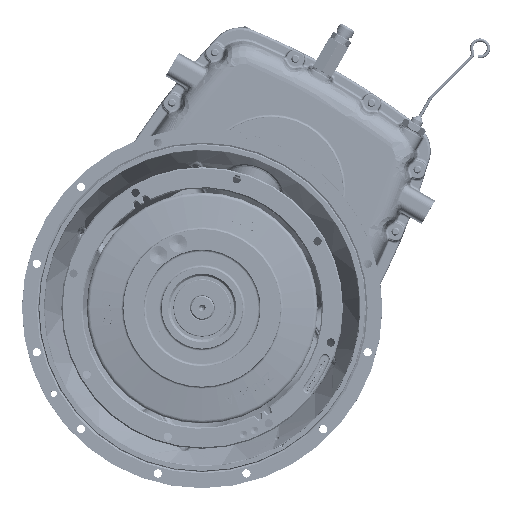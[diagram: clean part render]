
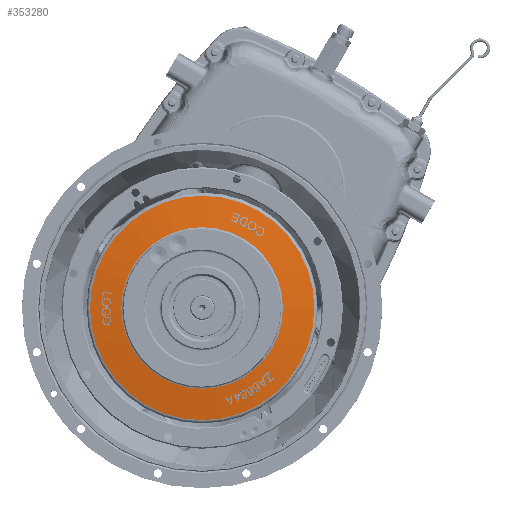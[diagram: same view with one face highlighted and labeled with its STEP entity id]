
A CAD part, top view. The second image highlights one B-rep face of the part: STEP entity #353280.
In plain terms, the highlighted conical face has half-angle 82.396 degrees and reference radius 144.463 mm.
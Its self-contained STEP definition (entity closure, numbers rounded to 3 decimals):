
#6660 = DIRECTION ( 'NONE',  ( 0., 0., -1. ) ) ;
#20850 = CONICAL_SURFACE ( 'NONE', #446734, 144.463, 1.438 ) ;
#34811 = EDGE_CURVE ( 'NONE', #338224, #338224, #116705, .T. ) ;
#40599 = CIRCLE ( 'NONE', #351524, 140.384 ) ;
#44273 = CARTESIAN_POINT ( 'NONE',  ( 0., 0., 45.312 ) ) ;
#79154 = DIRECTION ( 'NONE',  ( -1., 0., 0. ) ) ;
#94256 = ORIENTED_EDGE ( 'NONE', *, *, #409651, .T. ) ;
#102814 = CARTESIAN_POINT ( 'NONE',  ( -140.384, 0., 40.068 ) ) ;
#116705 = CIRCLE ( 'NONE', #359540, 101.104 ) ;
#147072 = DIRECTION ( 'NONE',  ( 1., 0., 0. ) ) ;
#154522 = DIRECTION ( 'NONE',  ( 0., 0., 1. ) ) ;
#156323 = CARTESIAN_POINT ( 'NONE',  ( -101.104, 0., 45.312 ) ) ;
#157377 = FACE_OUTER_BOUND ( 'NONE', #317062, .T. ) ;
#181132 = VERTEX_POINT ( 'NONE', #102814 ) ;
#288217 = DIRECTION ( 'NONE',  ( 0., 0., 1. ) ) ;
#310783 = ORIENTED_EDGE ( 'NONE', *, *, #34811, .F. ) ;
#317062 = EDGE_LOOP ( 'NONE', ( #94256 ) ) ;
#338224 = VERTEX_POINT ( 'NONE', #156323 ) ;
#351524 = AXIS2_PLACEMENT_3D ( 'NONE', #363588, #154522, #398818 ) ;
#353280 = ADVANCED_FACE ( 'NONE', ( #157377, #425097 ), #20850, .T. ) ;
#359540 = AXIS2_PLACEMENT_3D ( 'NONE', #44273, #288217, #79154 ) ;
#363588 = CARTESIAN_POINT ( 'NONE',  ( 0., 0., 40.068 ) ) ;
#389788 = CARTESIAN_POINT ( 'NONE',  ( 0., 0., 39.523 ) ) ;
#398818 = DIRECTION ( 'NONE',  ( -1., 0., 0. ) ) ;
#409651 = EDGE_CURVE ( 'NONE', #181132, #181132, #40599, .T. ) ;
#425097 = FACE_BOUND ( 'NONE', #425131, .T. ) ;
#425131 = EDGE_LOOP ( 'NONE', ( #310783 ) ) ;
#446734 = AXIS2_PLACEMENT_3D ( 'NONE', #389788, #6660, #147072 ) ;
